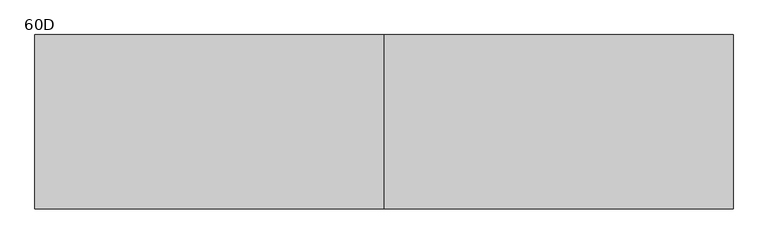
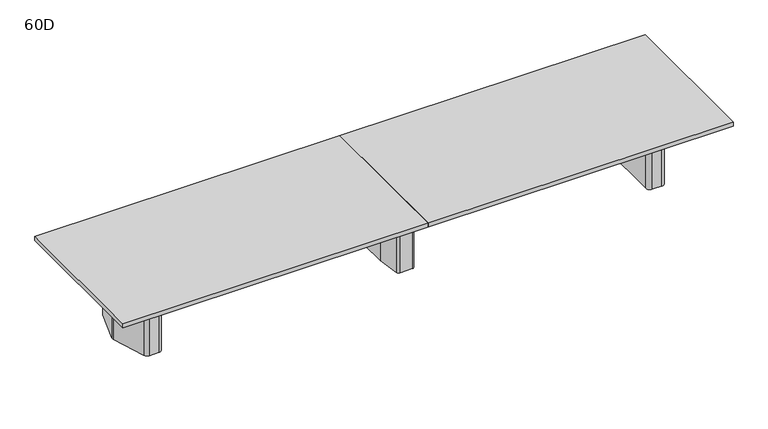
"""IFC4 building model written with IfcOpenShell, lengths in millimetres: furniture geometry, Coalesse_AM_Table_Conference_ETable2_Rectangular_20ft_ThreeBase : 60D."""

from ifc_helpers import new_model, si_unit, point, frame, frame_2d, origin, origin_with_axes, place, context, project, spatial, polyline, circle_curve, trimmed, segment, composite_curve, outline, extrude, source, transform, mapped, element, save
from ifc_brep_helpers import plane_surface, cylinder_surface, revolved_surface, advanced_brep


def furniture_60d_c13e7d78(model_context):
    return source(origin(), model_context, "Body", "SolidModel", [
        advanced_brep(
        [(61.0357815, 381.0, 698.5), (-61.0357815, 381.0, 698.5), (-86.1885994, 359.1349332, 698.5), (-117.2278179, 138.2753661, 698.5), (-117.475, 134.740433, 698.5), (-117.475, -134.7404196, 698.5), (-117.2278463, -138.2751502, 698.5), (-86.1904395, -359.1347306, 698.5), (-61.0375932, -381.0, 698.5), (61.0375932, -381.0, 698.5), (86.1904395, -359.1347306, 698.5), (117.2278463, -138.2751502, 698.5), (117.475, -134.7404196, 698.5), (117.475, 134.740433, 698.5), (117.2278179, 138.2753661, 698.5), (86.1885994, 359.1349332, 698.5), (25.4, 314.325, 698.5), (50.8, 288.925, 698.5), (50.8, -288.925, 698.5), (25.4, -314.325, 698.5), (-25.4, -314.325, 698.5), (-50.8, -288.925, 698.5), (-50.8, 288.925, 698.5), (-25.4, 314.325, 698.5), (61.0357815, 381.0, 3.175), (86.1885994, 359.1349332, 3.175), (117.2278179, 138.2753661, 3.175), (117.475, 134.740433, 3.175), (117.475, -134.7404196, 3.175), (117.2278463, -138.2751502, 3.175), (86.1904395, -359.1347306, 3.175), (61.0375932, -381.0, 3.175), (-61.0375932, -381.0, 3.175), (-86.1904395, -359.1347306, 3.175), (-117.2278463, -138.2751502, 3.175), (-117.475, -134.7404196, 3.175), (-117.475, 134.740433, 3.175), (-117.2278179, 138.2753661, 3.175), (-86.1885994, 359.1349332, 3.175), (-61.0357815, 381.0, 3.175), (25.4, 327.025, 3.175), (-25.4, 327.025, 3.175), (-63.5, 288.925, 3.175), (-63.5, -288.925, 3.175), (-25.4, -327.025, 3.175), (25.4, -327.025, 3.175), (63.5, -288.925, 3.175), (63.5, 288.925, 3.175), (25.4, 314.325, 3.175), (50.8, 288.925, 3.175), (50.8, -288.925, 3.175), (25.4, -314.325, 3.175), (-25.4, -314.325, 3.175), (-50.8, -288.925, 3.175), (-50.8, 288.925, 3.175), (-25.4, 314.325, 3.175), (25.4, 327.025, 0.0), (63.5, 288.925, 0.0), (63.5, -288.925, 0.0), (25.4, -327.025, 0.0), (-25.4, -327.025, 0.0), (-63.5, -288.925, 0.0), (-63.5, 288.925, 0.0), (-25.4, 327.025, 0.0)],
        [
            (0, 1),
            (1, 2, circle_curve(frame((-61.0357815, 355.6, 698.5), z_axis=(0.0, 0.0, 1.0), x_axis=(1.0, 0.0, 0.0)), 25.4)),
            (2, 3),
            (3, 4, circle_curve(frame((-92.075, 134.740433, 698.5), z_axis=(0.0, 0.0, 1.0), x_axis=(1.0, 0.0, 0.0)), 25.4)),
            (4, 5),
            (5, 6, circle_curve(frame((-92.075, -134.7404196, 698.5), z_axis=(0.0, 0.0, 1.0), x_axis=(1.0, 0.0, 0.0)), 25.4)),
            (6, 7),
            (7, 8, circle_curve(frame((-61.0375932, -355.6, 698.5), z_axis=(0.0, 0.0, 1.0), x_axis=(1.0, 0.0, 0.0)), 25.4)),
            (8, 9),
            (9, 10, circle_curve(frame((61.0375932, -355.6, 698.5), z_axis=(0.0, 0.0, 1.0), x_axis=(1.0, 0.0, 0.0)), 25.4)),
            (10, 11),
            (11, 12, circle_curve(frame((92.075, -134.7404196, 698.5), z_axis=(0.0, 0.0, 1.0), x_axis=(1.0, 0.0, 0.0)), 25.4)),
            (12, 13),
            (13, 14, circle_curve(frame((92.075, 134.740433, 698.5), z_axis=(0.0, 0.0, 1.0), x_axis=(1.0, 0.0, 0.0)), 25.4)),
            (14, 15),
            (15, 0, circle_curve(frame((61.0357815, 355.6, 698.5), z_axis=(0.0, 0.0, 1.0), x_axis=(1.0, 0.0, 0.0)), 25.4)),
            (16, 17, circle_curve(frame((25.4, 288.925, 698.5), z_axis=(0.0, 0.0, -1.0), x_axis=(1.0, 0.0, 0.0)), 25.4)),
            (17, 18),
            (18, 19, circle_curve(frame((25.4, -288.925, 698.5), z_axis=(0.0, 0.0, -1.0), x_axis=(1.0, 0.0, 0.0)), 25.4)),
            (19, 20),
            (20, 21, circle_curve(frame((-25.4, -288.925, 698.5), z_axis=(0.0, 0.0, -1.0), x_axis=(1.0, 0.0, 0.0)), 25.4)),
            (21, 22),
            (22, 23, circle_curve(frame((-25.4, 288.925, 698.5), z_axis=(0.0, 0.0, -1.0), x_axis=(1.0, 0.0, 0.0)), 25.4)),
            (23, 16),
            (24, 25, circle_curve(frame((61.0357815, 355.6, 3.175), z_axis=(0.0, 0.0, -1.0), x_axis=(1.0, 0.0, 0.0)), 25.4)),
            (25, 26),
            (26, 27, circle_curve(frame((92.075, 134.740433, 3.175), z_axis=(0.0, 0.0, -1.0), x_axis=(1.0, 0.0, 0.0)), 25.4)),
            (27, 28),
            (28, 29, circle_curve(frame((92.075, -134.7404196, 3.175), z_axis=(0.0, 0.0, -1.0), x_axis=(1.0, 0.0, 0.0)), 25.4)),
            (29, 30),
            (30, 31, circle_curve(frame((61.0375932, -355.6, 3.175), z_axis=(0.0, 0.0, -1.0), x_axis=(1.0, 0.0, 0.0)), 25.4)),
            (31, 32),
            (32, 33, circle_curve(frame((-61.0375932, -355.6, 3.175), z_axis=(0.0, 0.0, -1.0), x_axis=(1.0, 0.0, 0.0)), 25.4)),
            (33, 34),
            (34, 35, circle_curve(frame((-92.075, -134.7404196, 3.175), z_axis=(0.0, 0.0, -1.0), x_axis=(1.0, 0.0, 0.0)), 25.4)),
            (35, 36),
            (36, 37, circle_curve(frame((-92.075, 134.740433, 3.175), z_axis=(0.0, 0.0, -1.0), x_axis=(1.0, 0.0, 0.0)), 25.4)),
            (37, 38),
            (38, 39, circle_curve(frame((-61.0357815, 355.6, 3.175), z_axis=(0.0, 0.0, -1.0), x_axis=(1.0, 0.0, 0.0)), 25.4)),
            (39, 24),
            (40, 41),
            (41, 42, circle_curve(frame((-25.4, 288.925, 3.175), z_axis=(0.0, 0.0, 1.0), x_axis=(1.0, 0.0, 0.0)), 38.1)),
            (42, 43),
            (43, 44, circle_curve(frame((-25.4, -288.925, 3.175), z_axis=(0.0, 0.0, 1.0), x_axis=(1.0, 0.0, 0.0)), 38.1)),
            (44, 45),
            (45, 46, circle_curve(frame((25.4, -288.925, 3.175), z_axis=(0.0, 0.0, 1.0), x_axis=(1.0, 0.0, 0.0)), 38.1)),
            (46, 47),
            (47, 40, circle_curve(frame((25.4, 288.925, 3.175), z_axis=(0.0, 0.0, 1.0), x_axis=(1.0, 0.0, 0.0)), 38.1)),
            (0, 24),
            (39, 1),
            (38, 2),
            (37, 3),
            (36, 4),
            (35, 5),
            (34, 6),
            (33, 7),
            (32, 8),
            (31, 9),
            (30, 10),
            (29, 11),
            (28, 12),
            (27, 13),
            (26, 14),
            (25, 15),
            (16, 48),
            (48, 49, circle_curve(frame((25.4, 288.925, 3.175), z_axis=(0.0, 0.0, -1.0), x_axis=(1.0, 0.0, 0.0)), 25.4)),
            (49, 17),
            (49, 50),
            (50, 18),
            (50, 51, circle_curve(frame((25.4, -288.925, 3.175), z_axis=(0.0, 0.0, -1.0), x_axis=(1.0, 0.0, 0.0)), 25.4)),
            (51, 19),
            (51, 52),
            (52, 20),
            (52, 53, circle_curve(frame((-25.4, -288.925, 3.175), z_axis=(0.0, 0.0, -1.0), x_axis=(1.0, 0.0, 0.0)), 25.4)),
            (53, 21),
            (53, 54),
            (54, 22),
            (54, 55, circle_curve(frame((-25.4, 288.925, 3.175), z_axis=(0.0, 0.0, -1.0), x_axis=(1.0, 0.0, 0.0)), 25.4)),
            (55, 23),
            (55, 48),
            (56, 57, circle_curve(frame((25.4, 288.925, 0.0), z_axis=(0.0, 0.0, -1.0), x_axis=(1.0, 0.0, 0.0)), 38.1)),
            (57, 58),
            (58, 59, circle_curve(frame((25.4, -288.925, 0.0), z_axis=(0.0, 0.0, -1.0), x_axis=(1.0, 0.0, 0.0)), 38.1)),
            (59, 60),
            (60, 61, circle_curve(frame((-25.4, -288.925, 0.0), z_axis=(0.0, 0.0, -1.0), x_axis=(1.0, 0.0, 0.0)), 38.1)),
            (61, 62),
            (62, 63, circle_curve(frame((-25.4, 288.925, 0.0), z_axis=(0.0, 0.0, -1.0), x_axis=(1.0, 0.0, 0.0)), 38.1)),
            (63, 56),
            (63, 41),
            (40, 56),
            (62, 42),
            (61, 43),
            (60, 44),
            (59, 45),
            (58, 46),
            (57, 47),
        ],
        [
            plane_surface(frame((-1524.0, 381.0, 698.5), z_axis=(0.0, 0.0, 1.0), x_axis=(-1.0, 0.0, 0.0))),
            plane_surface(frame((-1524.0, 381.0, 3.175), z_axis=(0.0, 0.0, -1.0), x_axis=(1.0, 0.0, 0.0))),
            plane_surface(frame((61.0357815, 381.0, 698.5), z_axis=(0.0, 1.0, 0.0), x_axis=(0.0, 0.0, -1.0))),
            cylinder_surface(frame((-61.0357815, 355.6, 3.175), z_axis=(0.0, 0.0, 1.0), x_axis=(1.0, 0.0, 0.0)), 25.4),
            plane_surface(frame((-86.1885994, 359.1349332, 698.5), z_axis=(-0.9902684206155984, 0.13917059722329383, 0.0), x_axis=(0.0, 0.0, -1.0))),
            cylinder_surface(frame((-92.075, 134.740433, 3.175), z_axis=(0.0, 0.0, 1.0), x_axis=(1.0, 0.0, 0.0)), 25.4),
            plane_surface(frame((-117.475, 134.740433, 698.5), z_axis=(-1.0, 0.0, 0.0), x_axis=(0.0, 0.0, -1.0))),
            cylinder_surface(frame((-92.075, -134.7404196, 3.175), z_axis=(0.0, 0.0, 1.0), x_axis=(1.0, 0.0, 0.0)), 25.4),
            plane_surface(frame((-117.2278463, -138.2751502, 698.5), z_axis=(-0.9902695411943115, -0.1391626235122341, 0.0), x_axis=(0.0, 0.0, -1.0))),
            cylinder_surface(frame((-61.0375932, -355.6, 3.175), z_axis=(0.0, 0.0, 1.0), x_axis=(1.0, 0.0, 0.0)), 25.4),
            plane_surface(frame((-61.0375932, -381.0, 698.5), z_axis=(0.0, -1.0, 0.0), x_axis=(0.0, 0.0, -1.0))),
            cylinder_surface(frame((61.0375932, -355.6, 3.175), z_axis=(0.0, 0.0, 1.0), x_axis=(1.0, 0.0, 0.0)), 25.4),
            plane_surface(frame((86.1904395, -359.1347306, 698.5), z_axis=(0.9902695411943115, -0.1391626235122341, 0.0), x_axis=(0.0, 0.0, -1.0))),
            cylinder_surface(frame((92.075, -134.7404196, 3.175), z_axis=(0.0, 0.0, 1.0), x_axis=(1.0, 0.0, 0.0)), 25.4),
            plane_surface(frame((117.475, -134.7404196, 698.5), z_axis=(1.0, 0.0, 0.0), x_axis=(0.0, 0.0, -1.0))),
            cylinder_surface(frame((92.075, 134.740433, 3.175), z_axis=(0.0, 0.0, 1.0), x_axis=(1.0, 0.0, 0.0)), 25.4),
            plane_surface(frame((117.2278179, 138.2753661, 698.5), z_axis=(0.9902684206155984, 0.13917059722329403, 0.0), x_axis=(0.0, 0.0, -1.0))),
            cylinder_surface(frame((61.0357815, 355.6, 3.175), z_axis=(0.0, 0.0, 1.0), x_axis=(1.0, 0.0, 0.0)), 25.4),
            revolved_surface(polyline([(50.8, 288.925, 3.175), (50.8, 288.925, 698.5)]), (25.4, 288.925, 0.0), (0.0, 0.0, -1.0)),
            plane_surface(frame((50.8, 288.925, 698.5), z_axis=(-1.0, 0.0, 0.0), x_axis=(0.0, 0.0, -1.0))),
            revolved_surface(polyline([(50.8, -288.925, 3.175), (50.8, -288.925, 698.5)]), (25.4, -288.925, 0.0), (0.0, 0.0, -1.0)),
            plane_surface(frame((25.4, -314.325, 698.5), z_axis=(0.0, 1.0, 0.0), x_axis=(0.0, 0.0, -1.0))),
            revolved_surface(polyline([(0.0, -288.925, 3.175), (0.0, -288.925, 698.5)]), (-25.4, -288.925, 0.0), (0.0, 0.0, -1.0)),
            plane_surface(frame((-50.8, -288.925, 698.5), z_axis=(1.0, 0.0, 0.0), x_axis=(0.0, 0.0, -1.0))),
            revolved_surface(polyline([(0.0, 288.925, 3.175), (0.0, 288.925, 698.5)]), (-25.4, 288.925, 0.0), (0.0, 0.0, -1.0)),
            plane_surface(frame((-25.4, 314.325, 698.5), z_axis=(0.0, -1.0, 0.0), x_axis=(0.0, 0.0, -1.0))),
            plane_surface(frame((-50.8, 327.025, 3.175), z_axis=(0.0, 0.0, 1.0), x_axis=(-1.0, 0.0, 0.0))),
            plane_surface(frame((-50.8, 327.025, 0.0), z_axis=(0.0, 0.0, -1.0), x_axis=(1.0, 0.0, 0.0))),
            plane_surface(frame((25.4, 327.025, 3.175), z_axis=(0.0, 1.0, 0.0), x_axis=(0.0, 0.0, -1.0))),
            cylinder_surface(frame((-25.4, 288.925, 0.0), z_axis=(0.0, 0.0, 1.0), x_axis=(1.0, 0.0, 0.0)), 38.1),
            plane_surface(frame((-63.5, 288.925, 3.175), z_axis=(-1.0, 0.0, 0.0), x_axis=(0.0, 0.0, -1.0))),
            cylinder_surface(frame((-25.4, -288.925, 0.0), z_axis=(0.0, 0.0, 1.0), x_axis=(1.0, 0.0, 0.0)), 38.1),
            plane_surface(frame((-25.4, -327.025, 3.175), z_axis=(0.0, -1.0, 0.0), x_axis=(0.0, 0.0, -1.0))),
            cylinder_surface(frame((25.4, -288.925, 0.0), z_axis=(0.0, 0.0, 1.0), x_axis=(1.0, 0.0, 0.0)), 38.1),
            plane_surface(frame((63.5, -288.925, 3.175), z_axis=(1.0, 0.0, 0.0), x_axis=(0.0, 0.0, -1.0))),
            cylinder_surface(frame((25.4, 288.925, 0.0), z_axis=(0.0, 0.0, 1.0), x_axis=(1.0, 0.0, 0.0)), 38.1),
        ],
        [
            (0, [[1, 2, 3, 4, 5, 6, 7, 8, 9, 10, 11, 12, 13, 14, 15, 16], [17, 18, 19, 20, 21, 22, 23, 24]]),
            (1, [[25, 26, 27, 28, 29, 30, 31, 32, 33, 34, 35, 36, 37, 38, 39, 40], [41, 42, 43, 44, 45, 46, 47, 48]]),
            (2, [[-1, 49, -40, 50]]),
            (3, [[-2, -50, -39, 51]]),
            (4, [[-3, -51, -38, 52]]),
            (5, [[-4, -52, -37, 53]]),
            (6, [[-5, -53, -36, 54]]),
            (7, [[-6, -54, -35, 55]]),
            (8, [[-7, -55, -34, 56]]),
            (9, [[-8, -56, -33, 57]]),
            (10, [[-9, -57, -32, 58]]),
            (11, [[-10, -58, -31, 59]]),
            (12, [[-11, -59, -30, 60]]),
            (13, [[-12, -60, -29, 61]]),
            (14, [[-13, -61, -28, 62]]),
            (15, [[-14, -62, -27, 63]]),
            (16, [[-15, -63, -26, 64]]),
            (17, [[-16, -64, -25, -49]]),
            (18, [[-17, 65, 66, 67]]),
            (19, [[-18, -67, 68, 69]]),
            (20, [[-19, -69, 70, 71]]),
            (21, [[-20, -71, 72, 73]]),
            (22, [[-21, -73, 74, 75]]),
            (23, [[-22, -75, 76, 77]]),
            (24, [[-23, -77, 78, 79]]),
            (25, [[-24, -79, 80, -65]]),
            (26, [[-66, -80, -78, -76, -74, -72, -70, -68]]),
            (27, [[81, 82, 83, 84, 85, 86, 87, 88]]),
            (28, [[-88, 89, -41, 90]]),
            (29, [[-87, 91, -42, -89]]),
            (30, [[-86, 92, -43, -91]]),
            (31, [[-85, 93, -44, -92]]),
            (32, [[-84, 94, -45, -93]]),
            (33, [[-83, 95, -46, -94]]),
            (34, [[-82, 96, -47, -95]]),
            (35, [[-81, -90, -48, -96]]),
        ],
    ),
        extrude(outline(composite_curve([segment(polyline([(2646.3625, 101.7236478), (2646.3625, -97.2761514)]), True, "CONTINUOUS"), segment(trimmed(circle_curve(frame_2d((2608.2625, -97.2761514)), 38.1), [point((2646.3625, -97.2761514))], [point((2644.5991129, -108.7330515))], False, "CARTESIAN"), True, "CONTINUOUS"), segment(polyline([(2644.5991129, -108.7330515), (2586.1745591, -294.0319001)]), True, "CONTINUOUS"), segment(trimmed(circle_curve(frame_2d((2549.8379462, -282.575)), 38.1), [point((2586.1745591, -294.0319001))], [point((2549.8379462, -320.675))], False, "CARTESIAN"), True, "CONTINUOUS"), segment(polyline([(2549.8379462, -320.675), (2482.85, -320.675)]), True, "CONTINUOUS"), segment(trimmed(circle_curve(frame_2d((2482.85, -282.575)), 38.1), [point((2482.85, -320.675))], [point((2444.75, -282.575))], False, "CARTESIAN"), True, "CONTINUOUS"), segment(polyline([(2444.75, -282.575), (2444.75, 282.575)]), True, "CONTINUOUS"), segment(trimmed(circle_curve(frame_2d((2482.85, 282.575)), 38.1), [point((2444.75, 282.575))], [point((2482.85, 320.675))], False, "CARTESIAN"), True, "CONTINUOUS"), segment(polyline([(2482.85, 320.675), (2553.5873998, 320.675)]), True, "CONTINUOUS"), segment(trimmed(circle_curve(frame_2d((2553.5873998, 282.575)), 38.1), [point((2553.5873998, 320.675))], [point((2590.0572049, 293.6005756))], False, "CARTESIAN"), True, "CONTINUOUS"), segment(polyline([(2590.0572049, 293.6005756), (2644.7323051, 112.7492234)]), True, "CONTINUOUS"), segment(trimmed(circle_curve(frame_2d((2608.2625, 101.7236478)), 38.1), [point((2644.7323051, 112.7492234))], [point((2646.3625, 101.7236478))], False, "CARTESIAN"), True, "CONTINUOUS")], self_intersect=False)), origin_with_axes(), (0.0, 0.0, 1.0), 3.175),
        extrude(outline(composite_curve([segment(polyline([(2466.975, 381.0), (2555.1221663, 381.0)]), True, "CONTINUOUS"), segment(trimmed(circle_curve(frame_2d((2555.1221663, 339.725)), 41.275), [point((2555.1221663, 381.0))], [point((2594.4868303, 352.1366418))], False, "CARTESIAN"), True, "CONTINUOUS"), segment(polyline([(2594.4868303, 352.1366418), (2701.6018053, 12.4116418)]), True, "CONTINUOUS"), segment(trimmed(circle_curve(frame_2d((2662.2371413, 0.0)), 41.275), [point((2701.6018053, 12.4116418))], [point((2701.6018053, -12.4116418))], False, "CARTESIAN"), True, "CONTINUOUS"), segment(polyline([(2701.6018053, -12.4116418), (2594.4868303, -352.1366418)]), True, "CONTINUOUS"), segment(trimmed(circle_curve(frame_2d((2555.1221663, -339.725)), 41.275), [point((2594.4868303, -352.1366418))], [point((2555.1221663, -381.0))], False, "CARTESIAN"), True, "CONTINUOUS"), segment(polyline([(2555.1221663, -381.0), (2460.625, -381.0)]), True, "CONTINUOUS"), segment(trimmed(circle_curve(frame_2d((2460.625, -339.725)), 41.275), [point((2460.625, -381.0))], [point((2419.35, -339.725))], False, "CARTESIAN"), True, "CONTINUOUS"), segment(polyline([(2419.35, -339.725), (2419.35, 333.375)]), True, "CONTINUOUS"), segment(trimmed(circle_curve(frame_2d((2466.975, 333.375)), 47.625), [point((2419.35, 333.375))], [point((2466.975, 381.0))], False, "CARTESIAN"), True, "CONTINUOUS")], self_intersect=False), holes=[composite_curve([segment(trimmed(circle_curve(frame_2d((2482.85, -282.575)), 25.4), [point((2457.45, -282.575))], [point((2482.85, -307.975))], True, "CARTESIAN"), True, "CONTINUOUS"), segment(polyline([(2482.85, -307.975), (2549.8379462, -307.975)]), True, "CONTINUOUS"), segment(trimmed(circle_curve(frame_2d((2549.8379462, -282.575)), 25.4), [point((2549.8379462, -307.975))], [point((2574.0623548, -290.2129334))], True, "CARTESIAN"), True, "CONTINUOUS"), segment(polyline([(2574.0623548, -290.2129334), (2632.4869086, -104.9140848)]), True, "CONTINUOUS"), segment(trimmed(circle_curve(frame_2d((2608.2625, -97.2761514)), 25.4), [point((2632.4869086, -104.9140848))], [point((2633.6625, -97.2761514))], True, "CARTESIAN"), True, "CONTINUOUS"), segment(polyline([(2633.6625, -97.2761514), (2633.6625, 101.7236478)]), True, "CONTINUOUS"), segment(trimmed(circle_curve(frame_2d((2608.2625, 101.7236478)), 25.4), [point((2633.6625, 101.7236478))], [point((2632.5757034, 109.0740316))], True, "CARTESIAN"), True, "CONTINUOUS"), segment(polyline([(2632.5757034, 109.0740316), (2577.9006032, 289.9253837)]), True, "CONTINUOUS"), segment(trimmed(circle_curve(frame_2d((2553.5873998, 282.575)), 25.4), [point((2577.9006032, 289.9253837))], [point((2553.5873998, 307.975))], True, "CARTESIAN"), True, "CONTINUOUS"), segment(polyline([(2553.5873998, 307.975), (2482.85, 307.975)]), True, "CONTINUOUS"), segment(trimmed(circle_curve(frame_2d((2482.85, 282.575)), 25.4), [point((2482.85, 307.975))], [point((2457.45, 282.575))], True, "CARTESIAN"), True, "CONTINUOUS"), segment(polyline([(2457.45, 282.575), (2457.45, -282.575)]), True, "CONTINUOUS")], self_intersect=False)]), frame((0.0, 0.0, 3.175), z_axis=(0.0, 0.0, 1.0), x_axis=(1.0, 0.0, 0.0)), (0.0, 0.0, 1.0), 695.325),
        extrude(outline(composite_curve([segment(trimmed(circle_curve(frame_2d((-2619.375, 101.7236478)), 38.1), [point((-2657.475, 101.7236478))], [point((-2655.8448051, 112.7492234))], False, "CARTESIAN"), True, "CONTINUOUS"), segment(polyline([(-2655.8448051, 112.7492234), (-2601.1697049, 293.6005756)]), True, "CONTINUOUS"), segment(trimmed(circle_curve(frame_2d((-2564.6998998, 282.575)), 38.1), [point((-2601.1697049, 293.6005756))], [point((-2564.6998998, 320.675))], False, "CARTESIAN"), True, "CONTINUOUS"), segment(polyline([(-2564.6998998, 320.675), (-2493.9625, 320.675)]), True, "CONTINUOUS"), segment(trimmed(circle_curve(frame_2d((-2493.9625, 282.575)), 38.1), [point((-2493.9625, 320.675))], [point((-2455.8625, 282.575))], False, "CARTESIAN"), True, "CONTINUOUS"), segment(polyline([(-2455.8625, 282.575), (-2455.8625, -282.575)]), True, "CONTINUOUS"), segment(trimmed(circle_curve(frame_2d((-2493.9625, -282.575)), 38.1), [point((-2455.8625, -282.575))], [point((-2493.9625, -320.675))], False, "CARTESIAN"), True, "CONTINUOUS"), segment(polyline([(-2493.9625, -320.675), (-2560.9504462, -320.675)]), True, "CONTINUOUS"), segment(trimmed(circle_curve(frame_2d((-2560.9504462, -282.575)), 38.1), [point((-2560.9504462, -320.675))], [point((-2597.2870591, -294.0319001))], False, "CARTESIAN"), True, "CONTINUOUS"), segment(polyline([(-2597.2870591, -294.0319001), (-2655.7116129, -108.7330515)]), True, "CONTINUOUS"), segment(trimmed(circle_curve(frame_2d((-2619.375, -97.2761514)), 38.1), [point((-2655.7116129, -108.7330515))], [point((-2657.475, -97.2761514))], False, "CARTESIAN"), True, "CONTINUOUS"), segment(polyline([(-2657.475, -97.2761514), (-2657.475, 101.7236478)]), True, "CONTINUOUS")], self_intersect=False)), origin_with_axes(), (0.0, 0.0, 1.0), 3.175),
        extrude(outline(composite_curve([segment(trimmed(circle_curve(frame_2d((-2478.0875, 333.375)), 47.625), [point((-2478.0875, 381.0))], [point((-2430.4625, 333.375))], False, "CARTESIAN"), True, "CONTINUOUS"), segment(polyline([(-2430.4625, 333.375), (-2430.4625, -339.725)]), True, "CONTINUOUS"), segment(trimmed(circle_curve(frame_2d((-2471.7375, -339.725)), 41.275), [point((-2430.4625, -339.725))], [point((-2471.7375, -381.0))], False, "CARTESIAN"), True, "CONTINUOUS"), segment(polyline([(-2471.7375, -381.0), (-2566.2346663, -381.0)]), True, "CONTINUOUS"), segment(trimmed(circle_curve(frame_2d((-2566.2346663, -339.725)), 41.275), [point((-2566.2346663, -381.0))], [point((-2605.5993303, -352.1366418))], False, "CARTESIAN"), True, "CONTINUOUS"), segment(polyline([(-2605.5993303, -352.1366418), (-2712.7143053, -12.4116418)]), True, "CONTINUOUS"), segment(trimmed(circle_curve(frame_2d((-2673.3496413, 0.0)), 41.275), [point((-2712.7143053, -12.4116418))], [point((-2712.7143053, 12.4116418))], False, "CARTESIAN"), True, "CONTINUOUS"), segment(polyline([(-2712.7143053, 12.4116418), (-2605.5993303, 352.1366418)]), True, "CONTINUOUS"), segment(trimmed(circle_curve(frame_2d((-2566.2346663, 339.725)), 41.275), [point((-2605.5993303, 352.1366418))], [point((-2566.2346663, 381.0))], False, "CARTESIAN"), True, "CONTINUOUS"), segment(polyline([(-2566.2346663, 381.0), (-2478.0875, 381.0)]), True, "CONTINUOUS")], self_intersect=False), holes=[composite_curve([segment(polyline([(-2468.5625, -282.575), (-2468.5625, 282.575)]), True, "CONTINUOUS"), segment(trimmed(circle_curve(frame_2d((-2493.9625, 282.575)), 25.4), [point((-2468.5625, 282.575))], [point((-2493.9625, 307.975))], True, "CARTESIAN"), True, "CONTINUOUS"), segment(polyline([(-2493.9625, 307.975), (-2564.6998998, 307.975)]), True, "CONTINUOUS"), segment(trimmed(circle_curve(frame_2d((-2564.6998998, 282.575)), 25.4), [point((-2564.6998998, 307.975))], [point((-2589.0131032, 289.9253837))], True, "CARTESIAN"), True, "CONTINUOUS"), segment(polyline([(-2589.0131032, 289.9253837), (-2643.6882034, 109.0740316)]), True, "CONTINUOUS"), segment(trimmed(circle_curve(frame_2d((-2619.375, 101.7236478)), 25.4), [point((-2643.6882034, 109.0740316))], [point((-2644.775, 101.7236478))], True, "CARTESIAN"), True, "CONTINUOUS"), segment(polyline([(-2644.775, 101.7236478), (-2644.775, -97.2761514)]), True, "CONTINUOUS"), segment(trimmed(circle_curve(frame_2d((-2619.375, -97.2761514)), 25.4), [point((-2644.775, -97.2761514))], [point((-2643.5994086, -104.9140848))], True, "CARTESIAN"), True, "CONTINUOUS"), segment(polyline([(-2643.5994086, -104.9140848), (-2585.1748548, -290.2129334)]), True, "CONTINUOUS"), segment(trimmed(circle_curve(frame_2d((-2560.9504462, -282.575)), 25.4), [point((-2585.1748548, -290.2129334))], [point((-2560.9504462, -307.975))], True, "CARTESIAN"), True, "CONTINUOUS"), segment(polyline([(-2560.9504462, -307.975), (-2493.9625, -307.975)]), True, "CONTINUOUS"), segment(trimmed(circle_curve(frame_2d((-2493.9625, -282.575)), 25.4), [point((-2493.9625, -307.975))], [point((-2468.5625, -282.575))], True, "CARTESIAN"), True, "CONTINUOUS")], self_intersect=False)]), frame((0.0, 0.0, 3.175), z_axis=(0.0, 0.0, 1.0), x_axis=(1.0, 0.0, 0.0)), (0.0, 0.0, 1.0), 695.325),
        extrude(outline(polyline([(3048.0, 762.0), (3048.0, -762.0), (0.0, -762.0), (0.0, 762.0), (3048.0, 762.0)])), frame((0.0, 0.0, 698.5), z_axis=(0.0, 0.0, 1.0), x_axis=(1.0, 0.0, 0.0)), (0.0, 0.0, 1.0), 38.1),
        extrude(outline(polyline([(0.0, 762.0), (0.0, -762.0), (-3048.0, -762.0), (-3048.0, 762.0), (0.0, 762.0)])), frame((0.0, 0.0, 698.5), z_axis=(0.0, 0.0, 1.0), x_axis=(1.0, 0.0, 0.0)), (0.0, 0.0, 1.0), 38.1),
        extrude(outline(polyline([(96.8375, 698.5), (103.1875, 698.5), (103.1875, 476.25), (-103.1875, 476.25), (-103.1875, 698.5), (-96.8375, 698.5), (-96.8375, 482.6), (96.8375, 482.6), (96.8375, 698.5)])), frame((-2430.4625, 0.0, 0.0), z_axis=(1.0, 0.0, 0.0), x_axis=(0.0, 1.0, 0.0)), (0.0, 0.0, 1.0), 4849.8125),
    ])


if __name__ == "__main__":
    model = new_model("IFC4")
    model_context = context("Model", 3, world=origin())
    ifc_project = project(units=[si_unit("LENGTHUNIT", "METRE", prefix="MILLI")], contexts=[model_context])
    site = spatial("IfcSite", under=ifc_project)
    building = spatial("IfcBuilding", under=site)
    placement = place(None, origin())
    furniture_60d_shape = furniture_60d_c13e7d78(model_context)
    element("IfcFurniture", 1, ObjectType="Coalesse_AM_Table_Conference_ETable2_Rectangular_20ft_ThreeBase : 60D", at=placement, inside=building, context=model_context, shape_type="MappedRepresentation", body=[
        mapped(furniture_60d_shape, transform((0.0, 0.0, 0.0), x_axis=(1.0, 0.0, 0.0), y_axis=(0.0, 1.0, 0.0), z_axis=(0.0, 0.0, 1.0))),
    ])
    save(model, "model.ifc")
